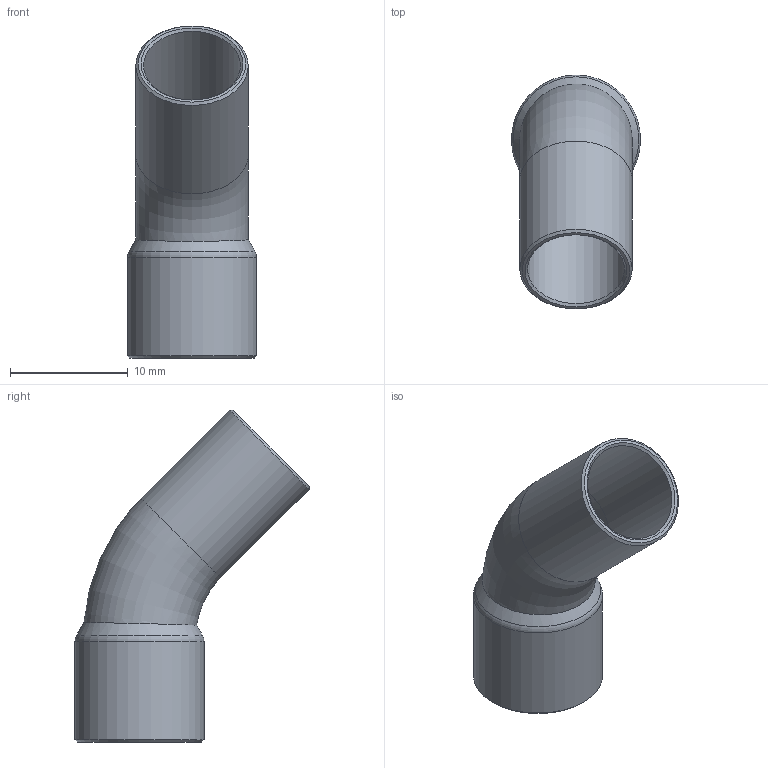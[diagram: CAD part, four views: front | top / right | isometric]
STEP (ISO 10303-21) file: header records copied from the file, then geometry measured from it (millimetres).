
FILE_DESCRIPTION((''),'2;1');
FILE_NAME('G:\SANHA-Ternat\Technik\Management\Bouwmaten + markeringen\z-maattekeningen 3D\29000s\2904038_3d.stp','2017-07-26T13:45:13',('vdvijverd'),(''),'Autodesk Inventor 2009','Autodesk Inventor 2009','');
FILE_SCHEMA(('AUTOMOTIVE_DESIGN { 1 0 10303 214 1 1 1 1 }'));
Length unit declared in the file: millimetre
Products named in the file (1): 2904038_3d
Bounding box: 10.95 x 19.85 x 28.15 mm (x, y, z)
Volume: 554.1 mm3; surface area: 1737.3 mm2
Topology: 1 solids, 1 shells, 18 faces, 34 edges, 20 vertices
Faces by surface type: cone 6, plane 4, cylinder 4, torus 3, bspline 1
Full cylindrical faces by diameter (mm): 8.225 x1, 9.525 x1, 9.645 x1, 10.945 x1
Entity records: 500 total; most frequent: CARTESIAN_POINT 171, DIRECTION 68, ORIENTED_EDGE 36, EDGE_LOOP 36, AXIS2_PLACEMENT_3D 34, VERTEX_POINT 18, EDGE_CURVE 18, FACE_OUTER_BOUND 18
